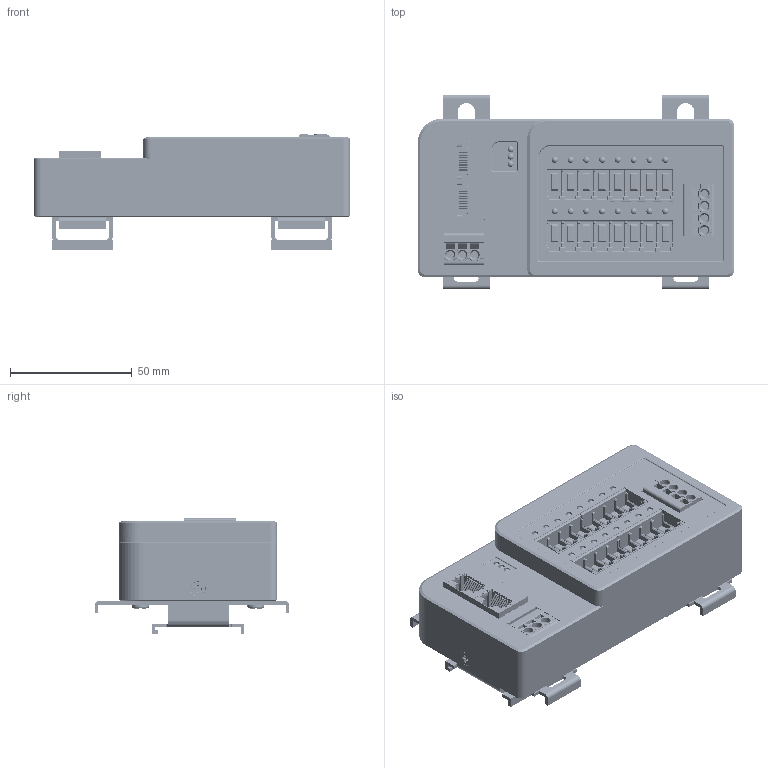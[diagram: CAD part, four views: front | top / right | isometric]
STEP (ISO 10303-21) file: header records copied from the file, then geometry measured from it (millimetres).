
FILE_DESCRIPTION((''),'2;1');
FILE_NAME('MR5101-EA_ASM_40_ASM_1_ASM','2023-08-05T11:43:30',('Administrator'),('yulong DESIGN'),'CREO PARAMETRIC BY PTC INC, 2021023','CREO PARAMETRIC BY PTC INC, 2021023','');
FILE_SCHEMA(('AUTOMOTIVE_DESIGN { 1 0 10303 214 1 1 1 1 }'));
Products named in the file (22): MR5101-EA_SKEL_3_1; FRONT_COVER_MR5101_36_1; REAR_COVER_MR5101_19_1; DIN35_LATCH_L80_4_1_1; DIN35_LATCH_L80_4_2_1; DIN35_LATCH_L80_4_ASM_1_ASM; LIGHT_PIPE_11D7_PWR_13_1; LIGHT_PIPE_10_IO_6_1; SCREW_PH_M2D5X5_4_1; SCREW_FLAT_M3X8_6_1; SCREW_PH_M4X6_3_1; SCREWS_ASM_2_ASM_1_ASM; EK-B403_1; DINKLE_0177-5304_1; DINKLE_0177-5303_1; PIN001_0_1; 24_-400600_1; BOSS-EXTRUDE1_1; 24_-955100_1; HY951180A_0_ASM_1_ASM; HY951180A-ASM_1_ASM_1_ASM; MR5101-EA_ASM_40_ASM_1_ASM
Assembly tree (54 placements, depth 4):
  MR5101-EA_ASM_40_ASM_1_ASM
    MR5101-EA_SKEL_3_1
    FRONT_COVER_MR5101_36_1
    REAR_COVER_MR5101_19_1
    DIN35_LATCH_L80_4_ASM_1_ASM  x2
      DIN35_LATCH_L80_4_1_1
      DIN35_LATCH_L80_4_2_1
    LIGHT_PIPE_11D7_PWR_13_1  x3
    LIGHT_PIPE_10_IO_6_1  x16
    SCREWS_ASM_2_ASM_1_ASM
      SCREW_PH_M2D5X5_4_1  x8
      SCREW_FLAT_M3X8_6_1  x2
      SCREW_PH_M4X6_3_1  x4
    EK-B403_1  x4
    DINKLE_0177-5304_1
    DINKLE_0177-5303_1
    HY951180A-ASM_1_ASM_1_ASM  x2
      PIN001_0_1
      HY951180A_0_ASM_1_ASM
        24_-400600_1
        BOSS-EXTRUDE1_1
        24_-955100_1
Bounding box: 129.95 x 80 x 47.4 mm (x, y, z)
Volume: 250847.1 mm3; surface area: 101306.8 mm2
Topology: 51 solids, 169 shells, 5478 faces, 16221 edges, 11083 vertices
Faces by surface type: plane 3757, cylinder 1133, cone 232, bspline 156, torus 130, sphere 38, revolution 24, extrusion 8
Entity records: 112327 total; most frequent: CARTESIAN_POINT 32650, ORIENTED_EDGE 14370, DIRECTION 13072, EDGE_CURVE 7945, VERTEX_POINT 5653, VECTOR 5236, LINE 5232, AXIS2_PLACEMENT_3D 3916
